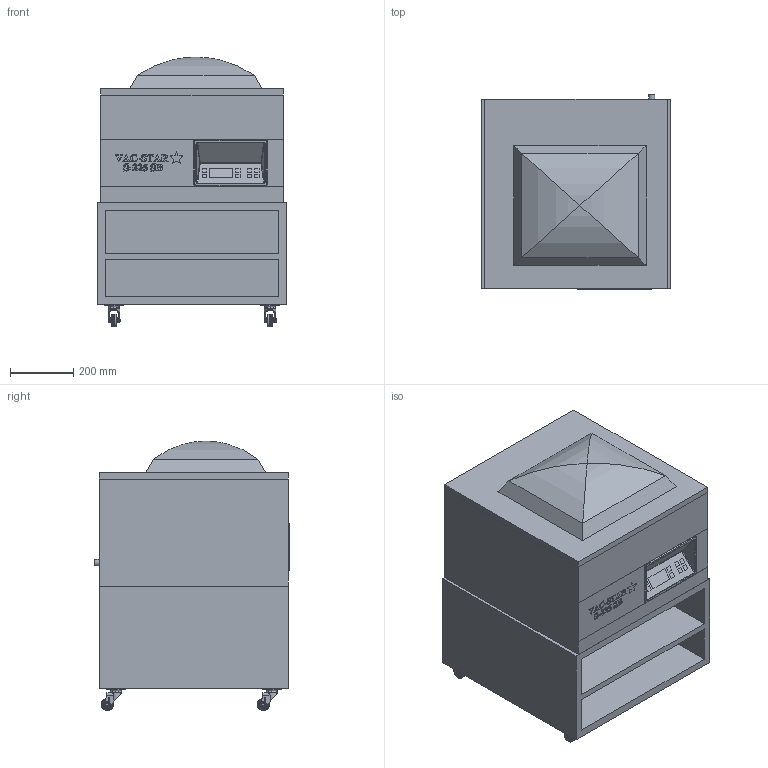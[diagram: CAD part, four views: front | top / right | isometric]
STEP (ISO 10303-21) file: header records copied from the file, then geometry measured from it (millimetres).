
FILE_DESCRIPTION(/* description */ ('Unknown'),/* implementation_level */ '2;1');
FILE_NAME(/* name */ 'C3D-S225-SB-mit-Unterbau-LUC-AA',/* time_stamp */ '2021-10-22T10:51:00+02:00',/* author */ ('Unknown'),/* organization */ ('Unknown'),/* preprocessor_version */ 'ST-DEVELOPER v16.7',/* originating_system */ 'Solid Edge',/* authorisation */ 'Unknown');
FILE_SCHEMA (('AUTOMOTIVE_DESIGN {1 0 10303 214 3 1 1}'));
Length unit declared in the file: millimetre
Products named in the file (8): R-VAC-STAR-S225SB-UC; R-VAC-STAR-U-L-UC; R-VAC-STAR-S225-SB; 310X PT 50 EL; 310X PT 50 EL_body; 310X PT 50 EL_shaft; 50 EL-6-X; 310X PT 50 EL_plate
Assembly tree (10 placements, depth 3):
  R-VAC-STAR-S225SB-UC
    R-VAC-STAR-U-L-UC
    R-VAC-STAR-S225-SB
    310X PT 50 EL  x4
      310X PT 50 EL_body
      310X PT 50 EL_shaft
      50 EL-6-X
      310X PT 50 EL_plate
Bounding box: 600 x 618.01 x 855 mm (x, y, z)
Volume: 136561800.8 mm3; surface area: 5724140 mm2
Topology: 19 solids, 19 shells, 1588 faces, 3849 edges, 2486 vertices
Faces by surface type: plane 918, cylinder 354, cone 128, torus 116, bspline 46, sphere 26
Full cylindrical faces by diameter (mm): 0.025 x4, 0.1 x4, 1.2 x4, 1.25 x4, 6 x20, 7 x8, 7.8 x8, 9 x8, 10.8 x8, 13 x4, 20 x1, 21 x8, 30 x4, 34.5 x8, 36 x12, 37.5 x8, 39.5 x8, 40 x12
Entity records: 25222 total; most frequent: CARTESIAN_POINT 8462, ORIENTED_EDGE 2896, DIRECTION 2646, EDGE_CURVE 1448, VERTEX_POINT 980, LINE 898, VECTOR 898, AXIS2_PLACEMENT_3D 874
